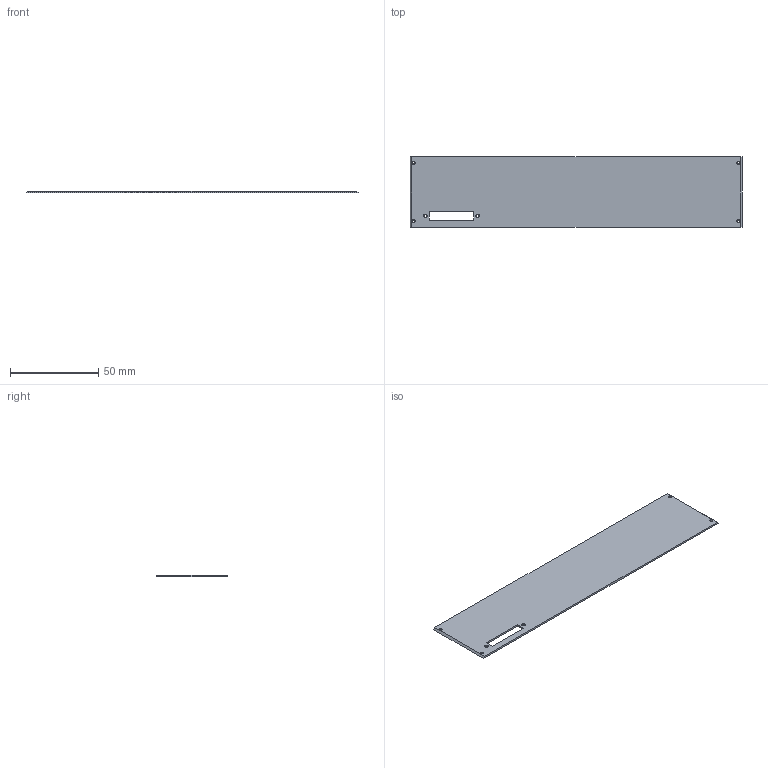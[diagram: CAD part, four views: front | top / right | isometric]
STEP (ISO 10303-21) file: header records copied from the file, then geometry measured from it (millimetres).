
FILE_DESCRIPTION((''),'2;1');
FILE_NAME('CASE-C','2023-06-07T15:00:59',('lamadaemon'),(''),'CREO PARAMETRIC BY PTC INC, 2022073','CREO PARAMETRIC BY PTC INC, 2022073','');
FILE_SCHEMA(('CONFIG_CONTROL_DESIGN'));
Length unit declared in the file: millimetre
Products named in the file (1): CASE-C
Bounding box: 188 x 40 x 1 mm (x, y, z)
Volume: 7345.7 mm3; surface area: 15298.8 mm2
Topology: 1 solids, 7 shells, 34 faces, 96 edges, 64 vertices
Faces by surface type: cylinder 24, plane 10
Entity records: 1185 total; most frequent: DIRECTION 214, CARTESIAN_POINT 195, ORIENTED_EDGE 168, EDGE_CURVE 96, AXIS2_PLACEMENT_3D 83, VERTEX_POINT 64, VECTOR 48, LINE 48
